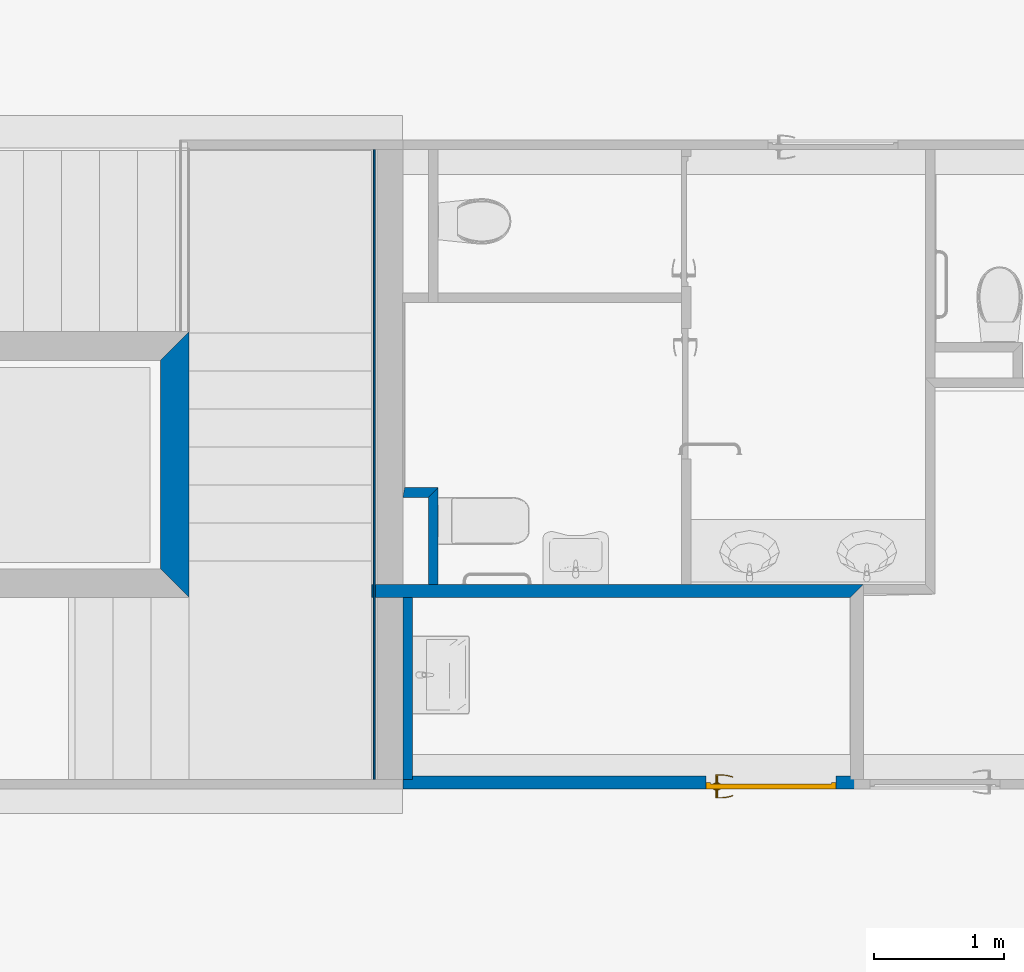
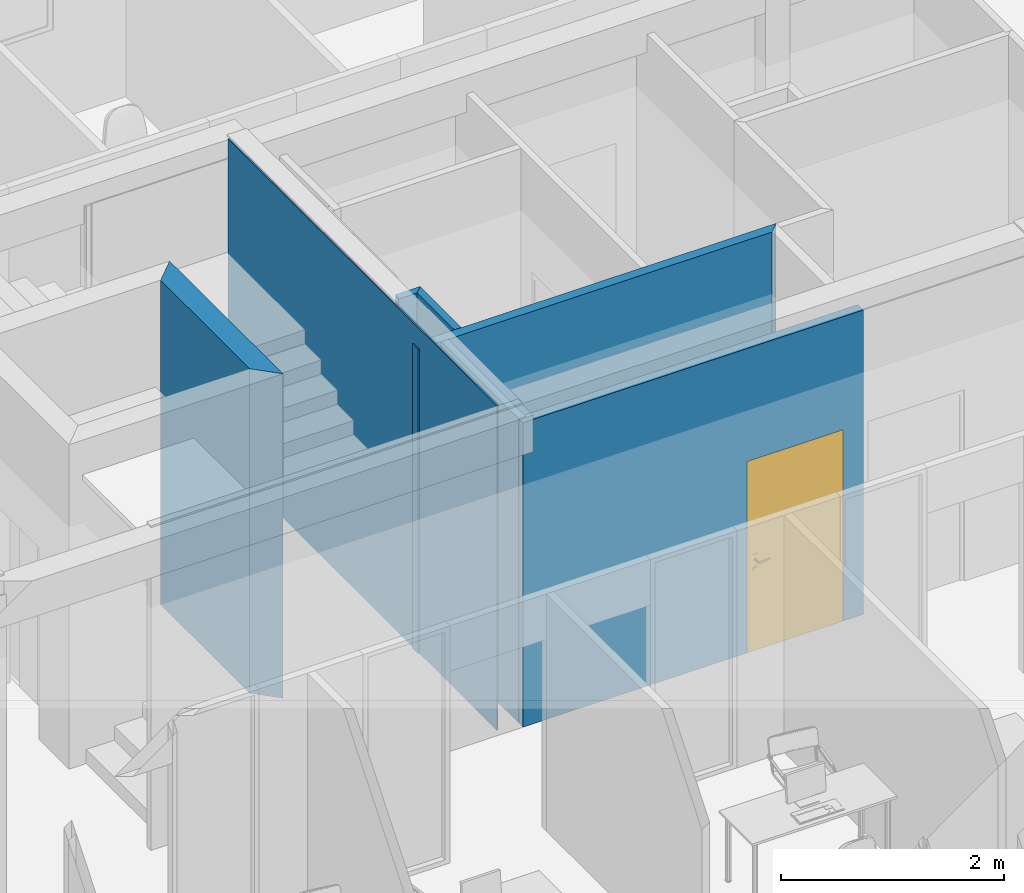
# One storey, part 19 of 91: 7 walls, 1 door, 1 opening.
"""IFC2X3 building model written with IfcOpenShell, lengths in metres."""

from ifc_helpers import new_model, entity, si_unit, converted_unit, derived_unit, money_unit, direction, frame, origin_with_axes, origin_2d_with_axis, place, context, subcontext, project, spatial, polyline, rectangle, outline, extrude, open_shell, faceted_brep, surface_model, source, transform, mapped, material, layer, layer_set, layer_usage, type_object, element, fill, save


model = new_model("IFC2X3")

# Units and contexts
model_context = context("Model", 3, precision=1e-05, world=origin_with_axes(), true_north=direction((0.0, 1.0)))
body_context = subcontext(model_context, "Body", "Model", "MODEL_VIEW")
ifc_project = project(units=[si_unit("LENGTHUNIT", "METRE"), si_unit("AREAUNIT", "SQUARE_METRE"), si_unit("VOLUMEUNIT", "CUBIC_METRE"), converted_unit("PLANEANGLEUNIT", "DEGREE", entity("IfcPlaneAngleMeasure", 0.0174532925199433), si_unit("PLANEANGLEUNIT", "RADIAN"), dimensions=[0, 0, 0, 0, 0, 0, 0]), money_unit("EUR"), converted_unit("TIMEUNIT", "Year", entity("IfcTimeMeasure", 31557600.0), si_unit("TIMEUNIT", "SECOND"), dimensions=[0, 0, 1, 0, 0, 0, 0]), si_unit("MASSUNIT", "GRAM", prefix="KILO"), si_unit("THERMODYNAMICTEMPERATUREUNIT", "DEGREE_CELSIUS"), si_unit("LUMINOUSINTENSITYUNIT", "LUMEN"), si_unit("ENERGYUNIT", "JOULE", prefix="MEGA"), derived_unit("THERMALCONDUCTANCEUNIT", [(si_unit("POWERUNIT", "WATT"), 1), (si_unit("LENGTHUNIT", "METRE"), -1), (si_unit("THERMODYNAMICTEMPERATUREUNIT", "KELVIN"), -1)]), derived_unit("SPECIFICHEATCAPACITYUNIT", [(si_unit("ENERGYUNIT", "JOULE"), 1), (si_unit("MASSUNIT", "GRAM", prefix="KILO"), -1), (si_unit("THERMODYNAMICTEMPERATUREUNIT", "KELVIN"), -1)]), derived_unit("MASSDENSITYUNIT", [(si_unit("MASSUNIT", "GRAM", prefix="KILO"), 1), (si_unit("VOLUMEUNIT", "CUBIC_METRE"), -1)])], contexts=[model_context])

# Site, building, storey
site_placement = place(None, origin_with_axes())
site = spatial("IfcSite", under=ifc_project, at=site_placement, Name="Site", CompositionType="ELEMENT")
building_placement = place(site_placement, origin_with_axes())
building = spatial("IfcBuilding", under=site, at=building_placement, Name="Bâtiment", CompositionType="ELEMENT")
storey_placement = place(building_placement, origin_with_axes())
storey = spatial("IfcBuildingStorey", under=building, at=storey_placement, Name="RDC", CompositionType="ELEMENT", Elevation=0.0)

# Wall
ifc_material_1 = material(Name="*GENERIQUE - ENDUIT EXT")
ifc_layer_1 = layer(ifc_material_1, 0.02, ventilated="UNKNOWN")
ifc_material_2 = material(Name="*GENERIQUE - MAÇONNERIE")
ifc_layer_2 = layer(ifc_material_2, 0.2, ventilated="UNKNOWN")
ifc_layer_set_1 = layer_set([ifc_layer_1, ifc_layer_2], Name="*Mur ENDUIT 1 face")
ifc_layer_usage_1 = layer_usage(ifc_layer_set_1, "AXIS2", "NEGATIVE", 0.0)
wall_type_1 = type_object("IfcWallType", Name="*Mur ENDUIT 1 face 220", PredefinedType="NOTDEFINED")
wall_1_placement = place(storey_placement, frame((36.41300800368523, -18.08756214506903, 0.0), z_axis=(0.0, 0.0, 1.0), x_axis=(0.0, -1.0, 0.0)))
element("IfcWallStandardCase", 1, at=wall_1_placement, inside=storey, type_object=wall_type_1, material=ifc_layer_usage_1, Name="MC_AGL_Ext-063", context=body_context, shape_type="SweptSolid", body=[
    extrude(outline(polyline([(0.2199999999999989, -0.2199999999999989), (1.820002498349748, -0.2199999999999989), (2.040002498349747, 0.0), (0.0, 0.0), (0.2199999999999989, -0.2199999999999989)])), origin_with_axes(), (0.0, 0.0, 1.0), 3.56),
])

# Wall, opening, door
ifc_material_3 = material(Name="*PLAQUE DE PLATRE - CLOISON")
ifc_layer_3 = layer(ifc_material_3, 0.026, ventilated="UNKNOWN")
ifc_material_4 = material(Name="*GENERIQUE - ISOLATION INT")
ifc_layer_4 = layer(ifc_material_4, 0.048, ventilated="UNKNOWN")
ifc_layer_5 = layer(ifc_material_3, 0.026, ventilated="UNKNOWN")
ifc_layer_set_2 = layer_set([ifc_layer_3, ifc_layer_4, ifc_layer_5], Name="*Cloison 98")
ifc_layer_usage_2 = layer_usage(ifc_layer_set_2, "AXIS2", "NEGATIVE", 0.0)
wall_type_2 = type_object("IfcWallType", Name="*Cloison 98 100", PredefinedType="NOTDEFINED")
wall_2_placement = place(storey_placement, frame((41.58700816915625, -21.59755971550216, 0.0), z_axis=(0.0, 0.0, 1.0), x_axis=(-1.0, 0.0, 0.0)))
wall_2 = element("IfcWallStandardCase", 2, at=wall_2_placement, inside=storey, type_object=wall_type_2, material=ifc_layer_usage_2, Name="Cloison ép.10 - CF1h", context=body_context, shape_type="SweptSolid", body=[
    extrude(outline(polyline([(0.0, -0.1000000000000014), (3.534000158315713, -0.1000000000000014), (3.534000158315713, 0.0), (0.0, 0.0), (0.0, -0.1000000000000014)])), origin_with_axes(), (0.0, 0.0, 1.0), 3.34),
])
opening_placement = place(wall_2_placement, frame((0.7100000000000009, 0.0, 0.0), z_axis=(0.0, 0.0, 1.0), x_axis=(1.0, 0.0, 0.0)))
opening = element("IfcOpeningElement", 3, at=opening_placement, cuts=wall_2, Name="Pi.04 REI30 + FP", context=body_context, shape_type="SweptSolid", body=[
    extrude(rectangle(XDim=1.0, YDim=2.1, at=origin_2d_with_axis()), frame((0.0, -0.1000000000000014, 1.05), z_axis=(0.0, -1.0, 0.0), x_axis=(-1.0, 0.0, 0.0)), (0.0, 0.0, -1.0), 0.3),
])
door_style = type_object("IfcDoorStyle", Name="Porte 27", ConstructionType="NOTDEFINED", OperationType="SINGLE_SWING_LEFT", ParameterTakesPrecedence=False, Sizeable=False)
shared_shape = source(origin_with_axes(), body_context, "Body", "SurfaceModel", [
    faceted_brep([(0.5, 0.0, 0.0), (0.5, -0.05, 0.0), (0.465, -0.05, 0.0), (0.465, 0.0, 0.0), (0.5, 0.0, 2.04), (0.5, -0.05, 2.04), (0.465, -0.05, 2.04), (0.465, 0.0, 2.04)], [[[0, 1, 2, 3]], [[4, 5, 1, 0]], [[1, 5, 6, 2]], [[3, 2, 6, 7]], [[0, 3, 7, 4]], [[7, 6, 5, 4]]]),
    faceted_brep([(-0.5, 0.0, 0.0), (-0.5, -0.05, 0.0), (-0.5, -0.05, 2.04), (-0.5, 0.0, 2.04), (-0.465, 0.0, 0.0), (-0.465, -0.05, 0.0), (-0.465, -0.05, 2.04), (-0.465, 0.0, 2.04)], [[[0, 1, 2, 3]], [[4, 5, 1, 0]], [[1, 5, 6, 2]], [[3, 2, 6, 7]], [[0, 3, 7, 4]], [[7, 6, 5, 4]]]),
    faceted_brep([(0.5, 0.0, 2.1), (0.5, -0.05, 2.1), (0.5, -0.05, 2.04), (0.5, 0.0, 2.04), (-0.5, 0.0, 2.1), (-0.5, -0.05, 2.1), (-0.5, -0.05, 2.04), (-0.465, -0.05, 2.04), (0.465, -0.05, 2.04), (0.465, 0.0, 2.04), (-0.465, 0.0, 2.04), (-0.5, 0.0, 2.04)], [[[0, 1, 2, 3]], [[4, 5, 1, 0]], [[1, 5, 6, 7, 8, 2]], [[3, 2, 8, 9]], [[0, 3, 9, 10, 11, 4]], [[11, 6, 5, 4]], [[10, 7, 6, 11]], [[9, 8, 7, 10]]]),
    faceted_brep([(0.4435, -0.04, 1.06), (0.3865, -0.04, 1.06), (0.3865, -0.043, 1.06), (0.4435, -0.043, 1.06), (0.4435, -0.04, 0.87), (0.3865, -0.04, 0.87), (0.3865, -0.043, 0.87), (0.4435, -0.043, 0.87)], [[[0, 1, 2, 3]], [[0, 4, 5, 1]], [[1, 5, 6, 2]], [[3, 2, 6, 7]], [[4, 0, 3, 7]], [[5, 4, 7, 6]]]),
    faceted_brep([(0.4149999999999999, -0.104, 0.99), (0.4199999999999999, -0.104, 0.9913397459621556), (0.4199999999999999, -0.111, 0.9913397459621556), (0.4149999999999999, -0.111, 0.99), (0.3899999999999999, -0.104, 0.99), (0.3899999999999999, -0.104, 1.01), (0.4149999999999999, -0.104, 1.01), (0.4199999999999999, -0.104, 1.008660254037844), (0.4236602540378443, -0.104, 1.005), (0.4249999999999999, -0.104, 1.0), (0.4236602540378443, -0.104, 0.995), (0.4236602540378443, -0.111, 0.995), (0.4249999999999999, -0.111, 1.0), (0.4236602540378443, -0.111, 1.005), (0.4199999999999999, -0.111, 1.008660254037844), (0.4149999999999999, -0.111, 1.01), (0.3899999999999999, -0.111, 1.01), (0.3899999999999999, -0.111, 0.99)], [[[0, 1, 2, 3]], [[0, 4, 5, 6, 7, 8, 9, 10, 1]], [[1, 10, 11, 2]], [[3, 2, 11, 12, 13, 14, 15, 16, 17]], [[4, 0, 3, 17]], [[5, 4, 17, 16]], [[6, 5, 16, 15]], [[7, 6, 15, 14]], [[8, 7, 14, 13]], [[9, 8, 13, 12]], [[10, 9, 12, 11]]]),
    surface_model("IfcShellBasedSurfaceModel", [(0.3899999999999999, -0.104, 1.01), (0.3769017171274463, -0.104, 1.009607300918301), (0.3765960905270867, -0.111, 1.009607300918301), (0.3899999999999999, -0.104, 0.99), (0.3769017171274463, -0.104, 0.9903926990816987), (0.349890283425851, -0.1086635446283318, 1.008821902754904), (0.3899999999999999, -0.111, 1.01), (0.3899999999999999, -0.111, 0.99), (0.3508048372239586, -0.1017168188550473, 0.9911780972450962), (0.3508048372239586, -0.1017168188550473, 1.008821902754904), (0.349890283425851, -0.1086635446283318, 0.9911780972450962), (0.3765960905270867, -0.111, 0.9903926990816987), (0.325006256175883, -0.09716783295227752, 0.9919634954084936), (0.325006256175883, -0.09716783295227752, 1.008036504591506), (0.3234897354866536, -0.104008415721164, 1.008036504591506), (0.3234897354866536, -0.104008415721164, 0.9919634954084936), (0.2997023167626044, -0.09038766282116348, 0.9927488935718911), (0.2997023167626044, -0.09038766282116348, 1.007251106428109), (0.2975953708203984, -0.09707004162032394, 1.007251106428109), (0.2975953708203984, -0.09707004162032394, 0.9927488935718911), (0.2918294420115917, -0.08752217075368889, 0.993), (0.2918294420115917, -0.08752217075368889, 1.007), (0.2895387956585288, -0.09413768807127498, 1.007), (0.2895387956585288, -0.09413768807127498, 0.993)], [open_shell([[[0, 1, 2]], [[0, 3, 4, 1]], [[1, 5, 2]], [[0, 2, 6]], [[4, 3, 7]], [[1, 4, 8, 9]], [[1, 9, 5]], [[2, 5, 10, 11]], [[6, 2, 11, 7]], [[4, 7, 11]], [[8, 4, 11]], [[9, 8, 12, 13]], [[9, 14, 5]], [[5, 14, 15, 10]], [[8, 11, 10]], [[12, 8, 10]], [[13, 12, 16, 17]], [[9, 13, 14]], [[14, 18, 19, 15]], [[12, 10, 15]], [[16, 12, 15]], [[17, 16, 20, 21]], [[13, 17, 18]], [[13, 18, 14]], [[18, 22, 23, 19]], [[16, 15, 19]], [[20, 16, 19]], [[21, 20, 23, 22]], [[17, 21, 22]], [[17, 22, 18]], [[20, 19, 23]]])]),
    faceted_brep([(0.4046076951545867, -0.05300000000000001, 0.994), (0.4029999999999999, -0.05300000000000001, 1.0), (0.4019999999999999, -0.043, 1.0), (0.4037416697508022, -0.043, 0.9935), (0.4089999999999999, -0.05300000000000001, 0.9896076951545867), (0.4149999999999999, -0.05300000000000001, 0.988), (0.4209999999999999, -0.05300000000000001, 0.9896076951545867), (0.4253923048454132, -0.05300000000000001, 0.994), (0.4269999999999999, -0.05300000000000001, 1.0), (0.4253923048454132, -0.05300000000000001, 1.006), (0.4209999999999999, -0.05300000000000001, 1.010392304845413), (0.4149999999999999, -0.05300000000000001, 1.012), (0.4089999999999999, -0.05300000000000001, 1.010392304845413), (0.4046076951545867, -0.05300000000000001, 1.006), (0.4037416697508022, -0.043, 1.0065), (0.4084999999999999, -0.043, 1.011258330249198), (0.4149999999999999, -0.043, 1.013), (0.4214999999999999, -0.043, 1.011258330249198), (0.4262583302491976, -0.043, 1.0065), (0.4279999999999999, -0.043, 1.0), (0.4262583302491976, -0.043, 0.9934999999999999), (0.4214999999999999, -0.043, 0.9887416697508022), (0.4149999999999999, -0.043, 0.987), (0.4084999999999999, -0.043, 0.9887416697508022)], [[[0, 1, 2, 3]], [[1, 0, 4, 5, 6, 7, 8, 9, 10, 11, 12, 13]], [[1, 13, 14, 2]], [[2, 14, 15, 16, 17, 18, 19, 20, 21, 22, 23, 3]], [[4, 0, 3, 23]], [[5, 4, 23, 22]], [[6, 5, 22, 21]], [[7, 6, 21, 20]], [[8, 7, 20, 19]], [[9, 8, 19, 18]], [[10, 9, 18, 17]], [[11, 10, 17, 16]], [[12, 11, 16, 15]], [[13, 12, 15, 14]]]),
    faceted_brep([(0.3976794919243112, -0.04700000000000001, 0.895), (0.3949999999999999, -0.04700000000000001, 0.905), (0.3929999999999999, -0.043, 0.905), (0.3959474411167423, -0.04300000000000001, 0.894), (0.4049999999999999, -0.04700000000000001, 0.8876794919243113), (0.4149999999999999, -0.04700000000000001, 0.885), (0.4249999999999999, -0.04700000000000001, 0.8876794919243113), (0.4323205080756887, -0.04700000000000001, 0.895), (0.4349999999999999, -0.04700000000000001, 0.905), (0.4323205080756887, -0.04700000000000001, 0.915), (0.4249999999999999, -0.04700000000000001, 0.9223205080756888), (0.4149999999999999, -0.04700000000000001, 0.925), (0.4049999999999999, -0.04700000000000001, 0.9223205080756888), (0.3976794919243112, -0.04700000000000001, 0.915), (0.3959474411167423, -0.043, 0.916), (0.4039999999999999, -0.043, 0.9240525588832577), (0.4149999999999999, -0.043, 0.927), (0.4259999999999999, -0.04300000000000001, 0.9240525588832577), (0.4340525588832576, -0.04300000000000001, 0.916), (0.4369999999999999, -0.04300000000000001, 0.905), (0.4340525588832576, -0.04300000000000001, 0.894), (0.4259999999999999, -0.04300000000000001, 0.8859474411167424), (0.4149999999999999, -0.04300000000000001, 0.883), (0.4039999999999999, -0.04300000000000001, 0.8859474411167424)], [[[0, 1, 2, 3]], [[1, 0, 4, 5, 6, 7, 8, 9, 10, 11, 12, 13]], [[1, 13, 14, 2]], [[2, 14, 15, 16, 17, 18, 19, 20, 21, 22, 23, 3]], [[4, 0, 3, 23]], [[5, 4, 23, 22]], [[6, 5, 22, 21]], [[7, 6, 21, 20]], [[8, 7, 20, 19]], [[9, 8, 19, 18]], [[10, 9, 18, 17]], [[11, 10, 17, 16]], [[12, 11, 16, 15]], [[13, 12, 15, 14]]]),
    faceted_brep([(0.4100502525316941, -0.04900000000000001, 0.9090502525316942), (0.4079999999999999, -0.04900000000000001, 0.914), (0.4069999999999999, -0.04700000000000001, 0.914), (0.4093431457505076, -0.04700000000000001, 0.9083431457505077), (0.4149999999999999, -0.04900000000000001, 0.907), (0.4199497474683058, -0.04900000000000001, 0.9090502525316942), (0.4219999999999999, -0.04900000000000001, 0.914), (0.4199497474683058, -0.04900000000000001, 0.9189497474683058), (0.4149999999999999, -0.04900000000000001, 0.921), (0.4100502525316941, -0.04900000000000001, 0.9189497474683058), (0.4093431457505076, -0.04700000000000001, 0.9196568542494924), (0.4149999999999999, -0.04700000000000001, 0.922), (0.4206568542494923, -0.04700000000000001, 0.9196568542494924), (0.4229999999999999, -0.04700000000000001, 0.914), (0.4206568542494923, -0.04700000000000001, 0.9083431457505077), (0.4149999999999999, -0.04700000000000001, 0.906)], [[[0, 1, 2, 3]], [[1, 0, 4, 5, 6, 7, 8, 9]], [[1, 9, 10, 2]], [[2, 10, 11, 12, 13, 14, 15, 3]], [[4, 0, 3, 15]], [[5, 4, 15, 14]], [[6, 5, 14, 13]], [[7, 6, 13, 12]], [[8, 7, 12, 11]], [[9, 8, 11, 10]]]),
    faceted_brep([(0.4149999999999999, -0.05300000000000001, 1.01), (0.4099999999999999, -0.05300000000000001, 1.008660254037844), (0.4099999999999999, -0.104, 1.008660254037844), (0.4149999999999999, -0.104, 1.01), (0.4199999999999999, -0.05300000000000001, 1.008660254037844), (0.4236602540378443, -0.05300000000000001, 1.005), (0.4249999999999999, -0.05300000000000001, 1.0), (0.4236602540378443, -0.05300000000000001, 0.995), (0.4199999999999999, -0.05300000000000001, 0.9913397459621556), (0.4149999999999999, -0.05300000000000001, 0.99), (0.4099999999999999, -0.05300000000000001, 0.9913397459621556), (0.4063397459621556, -0.05300000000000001, 0.995), (0.4049999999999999, -0.05300000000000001, 1.0), (0.4063397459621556, -0.05300000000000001, 1.005), (0.4063397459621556, -0.104, 1.005), (0.4049999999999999, -0.104, 1.0), (0.4063397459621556, -0.104, 0.995), (0.4099999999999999, -0.104, 0.9913397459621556), (0.4149999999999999, -0.104, 0.99), (0.4199999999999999, -0.104, 0.9913397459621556), (0.4236602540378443, -0.104, 0.995), (0.4249999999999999, -0.104, 1.0), (0.4236602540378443, -0.104, 1.005), (0.4199999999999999, -0.104, 1.008660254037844)], [[[0, 1, 2, 3]], [[0, 4, 5, 6, 7, 8, 9, 10, 11, 12, 13, 1]], [[1, 13, 14, 2]], [[3, 2, 14, 15, 16, 17, 18, 19, 20, 21, 22, 23]], [[4, 0, 3, 23]], [[5, 4, 23, 22]], [[6, 5, 22, 21]], [[7, 6, 21, 20]], [[8, 7, 20, 19]], [[9, 8, 19, 18]], [[10, 9, 18, 17]], [[11, 10, 17, 16]], [[12, 11, 16, 15]], [[13, 12, 15, 14]]]),
    faceted_brep([(0.4434999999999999, 0.0, 1.06), (0.4434999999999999, 0.003000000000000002, 1.06), (0.3864999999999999, 0.002999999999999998, 1.06), (0.3864999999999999, 0.0, 1.06), (0.4434999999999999, 0.0, 0.87), (0.4434999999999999, 0.003000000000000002, 0.87), (0.3864999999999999, 0.002999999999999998, 0.87), (0.3864999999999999, 0.0, 0.87)], [[[0, 1, 2, 3]], [[4, 5, 1, 0]], [[1, 5, 6, 2]], [[3, 2, 6, 7]], [[0, 3, 7, 4]], [[7, 6, 5, 4]]]),
    faceted_brep([(0.4149999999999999, 0.064, 0.99), (0.4149999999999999, 0.07100000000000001, 0.99), (0.4199999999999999, 0.07100000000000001, 0.9913397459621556), (0.4199999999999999, 0.064, 0.9913397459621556), (0.3899999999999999, 0.064, 0.99), (0.3899999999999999, 0.071, 0.99), (0.3899999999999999, 0.071, 1.01), (0.4149999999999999, 0.07100000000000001, 1.01), (0.4199999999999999, 0.07100000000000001, 1.008660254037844), (0.4236602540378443, 0.07100000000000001, 1.005), (0.4249999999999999, 0.07100000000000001, 1.0), (0.4236602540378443, 0.07100000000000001, 0.995), (0.4236602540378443, 0.064, 0.995), (0.4249999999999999, 0.064, 1.0), (0.4236602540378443, 0.064, 1.005), (0.4199999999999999, 0.064, 1.008660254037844), (0.4149999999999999, 0.064, 1.01), (0.3899999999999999, 0.064, 1.01)], [[[0, 1, 2, 3]], [[4, 5, 1, 0]], [[1, 5, 6, 7, 8, 9, 10, 11, 2]], [[3, 2, 11, 12]], [[0, 3, 12, 13, 14, 15, 16, 17, 4]], [[17, 6, 5, 4]], [[16, 7, 6, 17]], [[15, 8, 7, 16]], [[14, 9, 8, 15]], [[13, 10, 9, 14]], [[12, 11, 10, 13]]]),
    surface_model("IfcShellBasedSurfaceModel", [(0.3899999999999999, 0.064, 1.01), (0.3765960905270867, 0.071, 1.009607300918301), (0.3769017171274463, 0.064, 1.009607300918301), (0.3899999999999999, 0.07100000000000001, 1.01), (0.349890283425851, 0.06866354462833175, 1.008821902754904), (0.3769017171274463, 0.064, 0.9903926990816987), (0.3899999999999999, 0.064, 0.99), (0.3899999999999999, 0.07100000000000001, 0.99), (0.3765960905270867, 0.071, 0.9903926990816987), (0.349890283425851, 0.06866354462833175, 0.9911780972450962), (0.3508048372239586, 0.06171681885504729, 1.008821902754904), (0.3508048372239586, 0.06171681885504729, 0.9911780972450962), (0.3234897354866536, 0.064008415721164, 0.9919634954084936), (0.3234897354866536, 0.064008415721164, 1.008036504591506), (0.325006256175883, 0.05716783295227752, 1.008036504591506), (0.325006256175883, 0.05716783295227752, 0.9919634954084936), (0.2975953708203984, 0.05707004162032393, 0.9927488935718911), (0.2975953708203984, 0.05707004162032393, 1.007251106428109), (0.2997023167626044, 0.05038766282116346, 1.007251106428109), (0.2997023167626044, 0.05038766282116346, 0.9927488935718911), (0.2895387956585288, 0.05413768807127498, 0.993), (0.2895387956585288, 0.05413768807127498, 1.007), (0.2918294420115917, 0.04752217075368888, 1.007), (0.2918294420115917, 0.04752217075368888, 0.993)], [open_shell([[[0, 1, 2]], [[0, 3, 1]], [[2, 1, 4]], [[0, 2, 5, 6]], [[3, 7, 8, 1]], [[1, 8, 9, 4]], [[2, 4, 10]], [[2, 10, 11, 5]], [[5, 7, 6]], [[5, 8, 7]], [[11, 9, 8]], [[4, 9, 12, 13]], [[10, 4, 13]], [[10, 14, 15, 11]], [[11, 8, 5]], [[15, 9, 11]], [[15, 12, 9]], [[13, 12, 16, 17]], [[10, 13, 14]], [[14, 18, 19, 15]], [[19, 12, 15]], [[19, 16, 12]], [[17, 16, 20, 21]], [[14, 13, 17]], [[14, 17, 18]], [[18, 22, 23, 19]], [[23, 16, 19]], [[23, 20, 16]], [[22, 21, 20, 23]], [[18, 17, 21]], [[18, 21, 22]]])]),
    faceted_brep([(0.4046076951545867, 0.013, 0.994), (0.4037416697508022, 0.003, 0.9935), (0.4019999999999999, 0.002999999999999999, 1.0), (0.4029999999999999, 0.013, 1.0), (0.4089999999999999, 0.013, 0.9896076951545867), (0.4084999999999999, 0.003, 0.9887416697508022), (0.4149999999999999, 0.003000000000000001, 0.987), (0.4214999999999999, 0.003000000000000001, 0.9887416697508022), (0.4262583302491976, 0.003000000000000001, 0.9934999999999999), (0.4279999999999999, 0.003000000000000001, 1.0), (0.4262583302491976, 0.003, 1.0065), (0.4214999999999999, 0.003, 1.011258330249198), (0.4149999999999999, 0.002999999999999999, 1.013), (0.4084999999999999, 0.002999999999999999, 1.011258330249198), (0.4037416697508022, 0.002999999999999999, 1.0065), (0.4046076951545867, 0.013, 1.006), (0.4089999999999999, 0.013, 1.010392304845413), (0.4149999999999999, 0.013, 1.012), (0.4209999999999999, 0.013, 1.010392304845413), (0.4253923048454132, 0.013, 1.006), (0.4269999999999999, 0.013, 1.0), (0.4253923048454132, 0.013, 0.994), (0.4209999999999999, 0.013, 0.9896076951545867), (0.4149999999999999, 0.013, 0.988)], [[[0, 1, 2, 3]], [[4, 5, 1, 0]], [[2, 1, 5, 6, 7, 8, 9, 10, 11, 12, 13, 14]], [[3, 2, 14, 15]], [[3, 15, 16, 17, 18, 19, 20, 21, 22, 23, 4, 0]], [[23, 6, 5, 4]], [[22, 7, 6, 23]], [[21, 8, 7, 22]], [[20, 9, 8, 21]], [[19, 10, 9, 20]], [[18, 11, 10, 19]], [[17, 12, 11, 18]], [[16, 13, 12, 17]], [[15, 14, 13, 16]]]),
    faceted_brep([(0.3976794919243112, 0.007000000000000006, 0.895), (0.3959474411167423, 0.003000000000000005, 0.894), (0.3929999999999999, 0.003000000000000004, 0.905), (0.3949999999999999, 0.007000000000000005, 0.905), (0.4049999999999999, 0.007000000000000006, 0.8876794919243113), (0.4039999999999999, 0.003000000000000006, 0.8859474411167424), (0.4149999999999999, 0.003000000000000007, 0.883), (0.4259999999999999, 0.003000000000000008, 0.8859474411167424), (0.4340525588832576, 0.003000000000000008, 0.894), (0.4369999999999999, 0.003000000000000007, 0.905), (0.4340525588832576, 0.003000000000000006, 0.916), (0.4259999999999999, 0.003000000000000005, 0.9240525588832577), (0.4149999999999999, 0.003000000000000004, 0.927), (0.4039999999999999, 0.003000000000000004, 0.9240525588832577), (0.3959474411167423, 0.003000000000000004, 0.916), (0.3976794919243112, 0.007000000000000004, 0.915), (0.4049999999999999, 0.007000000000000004, 0.9223205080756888), (0.4149999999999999, 0.007000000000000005, 0.925), (0.4249999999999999, 0.007000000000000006, 0.9223205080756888), (0.4323205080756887, 0.007000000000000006, 0.915), (0.4349999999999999, 0.007000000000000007, 0.905), (0.4323205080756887, 0.007000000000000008, 0.895), (0.4249999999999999, 0.007000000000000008, 0.8876794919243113), (0.4149999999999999, 0.007000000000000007, 0.885)], [[[0, 1, 2, 3]], [[4, 5, 1, 0]], [[2, 1, 5, 6, 7, 8, 9, 10, 11, 12, 13, 14]], [[3, 2, 14, 15]], [[3, 15, 16, 17, 18, 19, 20, 21, 22, 23, 4, 0]], [[23, 6, 5, 4]], [[22, 7, 6, 23]], [[21, 8, 7, 22]], [[20, 9, 8, 21]], [[19, 10, 9, 20]], [[18, 11, 10, 19]], [[17, 12, 11, 18]], [[16, 13, 12, 17]], [[15, 14, 13, 16]]]),
    faceted_brep([(0.4100502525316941, 0.009000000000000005, 0.9090502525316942), (0.4093431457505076, 0.007000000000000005, 0.9083431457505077), (0.4069999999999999, 0.007000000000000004, 0.914), (0.4079999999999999, 0.009000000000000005, 0.914), (0.4149999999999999, 0.009000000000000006, 0.907), (0.4149999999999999, 0.007000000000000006, 0.906), (0.4206568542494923, 0.007000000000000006, 0.9083431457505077), (0.4229999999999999, 0.007000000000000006, 0.914), (0.4206568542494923, 0.007000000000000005, 0.9196568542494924), (0.4149999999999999, 0.007000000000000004, 0.922), (0.4093431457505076, 0.007000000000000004, 0.9196568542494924), (0.4100502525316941, 0.009000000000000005, 0.9189497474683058), (0.4149999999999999, 0.009000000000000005, 0.921), (0.4199497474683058, 0.009000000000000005, 0.9189497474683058), (0.4219999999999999, 0.009000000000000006, 0.914), (0.4199497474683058, 0.009000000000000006, 0.9090502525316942)], [[[0, 1, 2, 3]], [[4, 5, 1, 0]], [[2, 1, 5, 6, 7, 8, 9, 10]], [[3, 2, 10, 11]], [[3, 11, 12, 13, 14, 15, 4, 0]], [[15, 6, 5, 4]], [[14, 7, 6, 15]], [[13, 8, 7, 14]], [[12, 9, 8, 13]], [[11, 10, 9, 12]]]),
    faceted_brep([(0.4149999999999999, 0.013, 1.01), (0.4149999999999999, 0.064, 1.01), (0.4099999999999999, 0.064, 1.008660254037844), (0.4099999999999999, 0.013, 1.008660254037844), (0.4199999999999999, 0.013, 1.008660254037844), (0.4199999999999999, 0.064, 1.008660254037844), (0.4236602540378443, 0.064, 1.005), (0.4249999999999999, 0.064, 1.0), (0.4236602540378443, 0.064, 0.995), (0.4199999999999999, 0.064, 0.9913397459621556), (0.4149999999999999, 0.064, 0.99), (0.4099999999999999, 0.064, 0.9913397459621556), (0.4063397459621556, 0.064, 0.995), (0.4049999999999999, 0.064, 1.0), (0.4063397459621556, 0.064, 1.005), (0.4063397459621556, 0.013, 1.005), (0.4049999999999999, 0.013, 1.0), (0.4063397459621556, 0.013, 0.995), (0.4099999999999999, 0.013, 0.9913397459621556), (0.4149999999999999, 0.013, 0.99), (0.4199999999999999, 0.013, 0.9913397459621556), (0.4236602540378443, 0.013, 0.995), (0.4249999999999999, 0.013, 1.0), (0.4236602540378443, 0.013, 1.005)], [[[0, 1, 2, 3]], [[4, 5, 1, 0]], [[1, 5, 6, 7, 8, 9, 10, 11, 12, 13, 14, 2]], [[3, 2, 14, 15]], [[0, 3, 15, 16, 17, 18, 19, 20, 21, 22, 23, 4]], [[23, 6, 5, 4]], [[22, 7, 6, 23]], [[21, 8, 7, 22]], [[20, 9, 8, 21]], [[19, 10, 9, 20]], [[18, 11, 10, 19]], [[17, 12, 11, 18]], [[16, 13, 12, 17]], [[15, 14, 13, 16]]]),
    faceted_brep([(-0.465, 0.0, 0.0), (0.465, 0.0, 0.0), (0.465, -0.04, 0.0), (-0.465, -0.04, 0.0), (-0.465, 0.0, 2.04), (0.465, 0.0, 2.04), (0.465, -0.04000000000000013, 2.04), (-0.465, -0.04000000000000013, 2.04)], [[[0, 1, 2, 3]], [[0, 4, 5, 1]], [[1, 5, 6, 2]], [[3, 2, 6, 7]], [[4, 0, 3, 7]], [[5, 4, 7, 6]]]),
])
door_placement = place(opening_placement, frame((-0.5, 0.0, 0.0), z_axis=(0.0, 0.0, 1.0), x_axis=(1.0, 0.0, 0.0)))
door = element("IfcDoor", 4, at=door_placement, inside=storey, type_object=door_style, Name="Pi.04 REI30 + FP", OverallHeight=2.1, OverallWidth=1.0, context=body_context, shape_type="MappedRepresentation", body=[
    mapped(shared_shape, transform((0.5, 0.0, 0.0))),
])
fill(opening, door)

# Walls
ifc_layer_usage_3 = layer_usage(ifc_layer_set_2, "AXIS2", "POSITIVE", 0.0)
wall_3_placement = place(storey_placement, frame((41.58700816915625, -20.02867050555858, 0.0), z_axis=(0.0, 0.0, 1.0), x_axis=(-1.0, 0.0, 0.0)))
element("IfcWallStandardCase", 5, at=wall_3_placement, inside=storey, type_object=wall_type_2, material=ifc_layer_usage_3, Name="Cloison ép.10 - CF1h", context=body_context, shape_type="SweptSolid", body=[
    extrude(outline(polyline([(0.0, 0.0), (3.774000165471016, 0.0), (3.774000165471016, 0.1000000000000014), (0.1000000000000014, 0.1000000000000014), (0.0, 0.0)])), origin_with_axes(), (0.0, 0.0, 1.0), 3.34),
])
ifc_material_5 = material(Name="Finition int - Plaque de plâtre")
ifc_layer_6 = layer(ifc_material_5, 0.013, ventilated="UNKNOWN")
ifc_material_6 = material(Name="Isolation - Laine de verre")
ifc_layer_7 = layer(ifc_material_6, 0.048, ventilated="UNKNOWN")
ifc_layer_8 = layer(ifc_material_5, 0.013, ventilated="UNKNOWN")
ifc_layer_set_3 = layer_set([ifc_layer_6, ifc_layer_7, ifc_layer_8], Name="*Cloison 72")
ifc_layer_usage_4 = layer_usage(ifc_layer_set_3, "AXIS2", "NEGATIVE", 0.0)
wall_type_3 = type_object("IfcWallType", Name="*Cloison 72 74", PredefinedType="NOTDEFINED")
wall_4_placement = place(storey_placement, frame((38.05300801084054, -21.52355971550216, 0.0), z_axis=(0.0, 0.0, 1.0), x_axis=(0.0, 1.0, 0.0)))
element("IfcWallStandardCase", 6, at=wall_4_placement, inside=storey, type_object=wall_type_3, material=ifc_layer_usage_4, Name="Cloisons ép. 72mm", context=body_context, shape_type="SweptSolid", body=[
    extrude(outline(polyline([(0.0, -0.07399999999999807), (1.394889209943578, -0.07399999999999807), (1.394889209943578, 0.0), (0.0, 0.0), (0.0, -0.07399999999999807)])), origin_with_axes(), (0.0, 0.0, 1.0), 3.34),
])
ifc_layer_usage_5 = layer_usage(ifc_layer_set_3, "AXIS2", "NEGATIVE", 0.0)
wall_5_placement = place(storey_placement, frame((38.24800801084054, -20.02867050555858, 0.0), z_axis=(0.0, 0.0, 1.0), x_axis=(0.0, 1.0, 0.0)))
element("IfcWallStandardCase", 7, at=wall_5_placement, inside=storey, type_object=wall_type_3, material=ifc_layer_usage_5, Name="Cloisons ép. 72mm", context=body_context, shape_type="SweptSolid", body=[
    extrude(outline(polyline([(0.0, -0.07399999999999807), (0.7431081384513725, -0.07399999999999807), (0.6691081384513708, 0.0), (0.0, 0.0), (0.0, -0.07399999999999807)])), origin_with_axes(), (0.0, 0.0, 1.0), 3.34),
])
ifc_layer_usage_6 = layer_usage(ifc_layer_set_3, "AXIS2", "POSITIVE", 0.0)
wall_6_placement = place(storey_placement, frame((38.05300801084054, -19.35956236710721, 0.0), z_axis=(0.0, 0.0, 1.0), x_axis=(1.0, 0.0, 0.0)))
element("IfcWallStandardCase", 8, at=wall_6_placement, inside=storey, type_object=wall_type_3, material=ifc_layer_usage_6, Name="Cloisons ép. 72mm", context=body_context, shape_type="SweptSolid", body=[
    extrude(outline(polyline([(0.0, 0.0), (0.1950000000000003, 0.0), (0.2689999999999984, 0.07400000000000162), (0.01299999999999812, 0.07400000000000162), (0.0, 0.0)])), origin_with_axes(), (0.0, 0.0, 1.0), 3.34),
])
ifc_layer_9 = layer(ifc_material_3, 0.013, ventilated="UNKNOWN")
ifc_layer_set_4 = layer_set([ifc_layer_9], Name="*PLAQUE DE PLATRE - CLOISON 0.013")
ifc_layer_usage_7 = layer_usage(ifc_layer_set_4, "AXIS2", "NEGATIVE", 0.0)
wall_type_4 = type_object("IfcWallType", Name="*PLAQUE DE PLATRE - CLOISON 13", PredefinedType="NOTDEFINED")
wall_7_placement = place(storey_placement, frame((37.82600800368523, -21.59756192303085, 0.0), z_axis=(0.0, 0.0, 1.0), x_axis=(0.0, 1.0, 0.0)))
element("IfcWallStandardCase", 9, at=wall_7_placement, inside=storey, type_object=wall_type_4, material=ifc_layer_usage_7, Name="Plaque de plâtre collée", context=body_context, shape_type="SweptSolid", body=[
    extrude(outline(polyline([(0.07400000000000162, -0.01299999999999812), (4.905997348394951, -0.01299999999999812), (4.905997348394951, 0.0), (0.07400000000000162, 0.0), (0.07400000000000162, -0.01299999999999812)])), origin_with_axes(), (0.0, 0.0, 1.0), 3.56),
])

save(model, "model.ifc")
